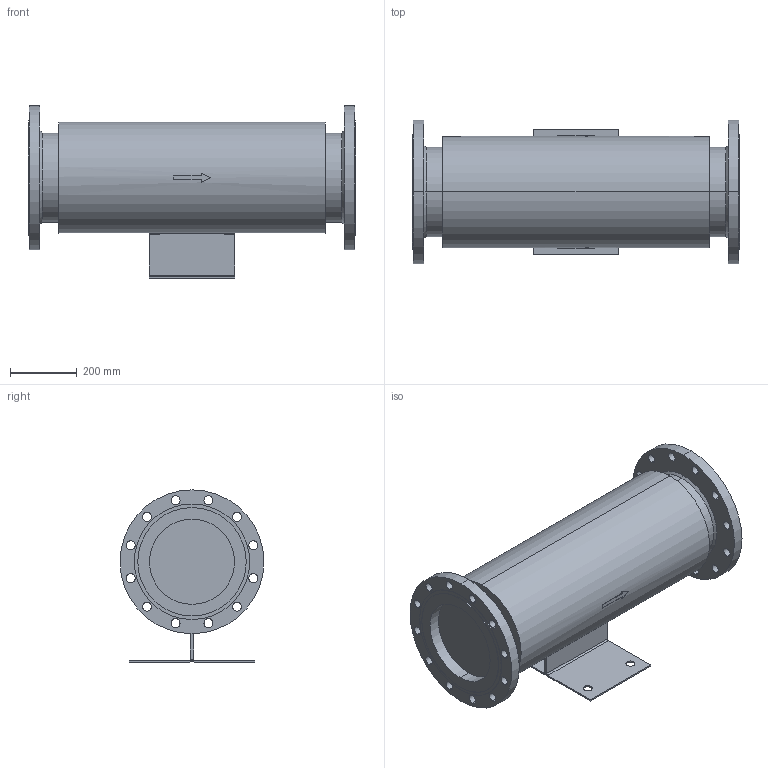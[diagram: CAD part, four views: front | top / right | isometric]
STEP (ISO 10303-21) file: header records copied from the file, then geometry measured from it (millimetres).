
FILE_DESCRIPTION( (''), '2;1');
FILE_NAME ('PC1027.9516.EB-12_250A_2782.stp','2025-07-30T09:48:42',(''),(''),'spGate 20.6.3 (****-****-****-****)','','');
FILE_SCHEMA (('AUTOMOTIVE_DESIGN'));
Length unit declared in the file: millimetre
Bounding box: 980 x 430 x 515 mm (x, y, z)
Volume: 82125161.4 mm3; surface area: 1898284.8 mm2
Topology: 1 solids, 1 shells, 132 faces, 349 edges, 232 vertices
Faces by surface type: cylinder 82, plane 46, bspline 4
Entity records: 6961 total; most frequent: CARTESIAN_POINT 839, DIRECTION 701, ORIENTED_EDGE 698, COLOUR_RGB 482, PRESENTATION_STYLE_ASSIGNMENT 482, STYLED_ITEM 482, EDGE_CURVE 349, DRAUGHTING_PRE_DEFINED_CURVE_FONT 349
